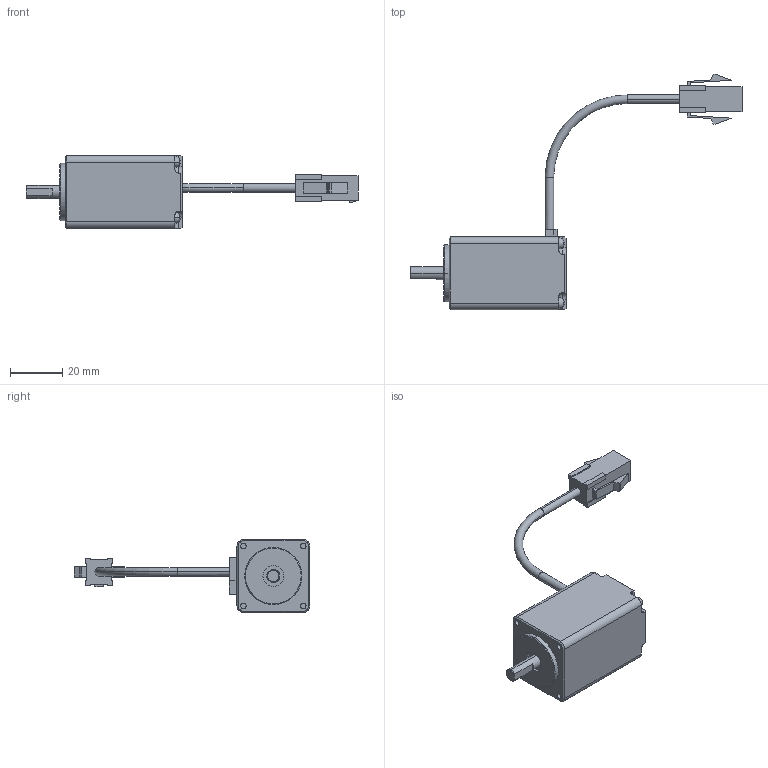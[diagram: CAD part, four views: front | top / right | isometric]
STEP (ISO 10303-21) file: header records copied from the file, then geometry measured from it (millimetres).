
FILE_DESCRIPTION (( 'STEP AP203' ), '1' );
FILE_NAME ('P21-MO-028-02-R01.STEP', '2015-06-30T01:46:24', ( '' ), ( '' ), 'SwSTEP 2.0', 'SolidWorks 2013', '' );
FILE_SCHEMA (( 'CONFIG_CONTROL_DESIGN' ));
Length unit declared in the file: millimetre
Products named in the file (3): M21-MO-028-02-R01; Power_Cable_ル遽; P21-MO-028-02-R01
Assembly tree (2 placements, depth 2):
  P21-MO-028-02-R01
    M21-MO-028-02-R01
    Power_Cable_ル遽
Bounding box: 127.58 x 90.51 x 28 mm (x, y, z)
Volume: 38314.1 mm3; surface area: 10519.8 mm2
Topology: 2 solids, 2 shells, 254 faces, 671 edges, 436 vertices
Faces by surface type: plane 173, cylinder 58, cone 9, sphere 8, torus 6
Entity records: 8171 total; most frequent: CARTESIAN_POINT 1513, DIRECTION 1348, ORIENTED_EDGE 1314, EDGE_CURVE 657, AXIS2_PLACEMENT_3D 452, VECTOR 444, LINE 444, VERTEX_POINT 429
